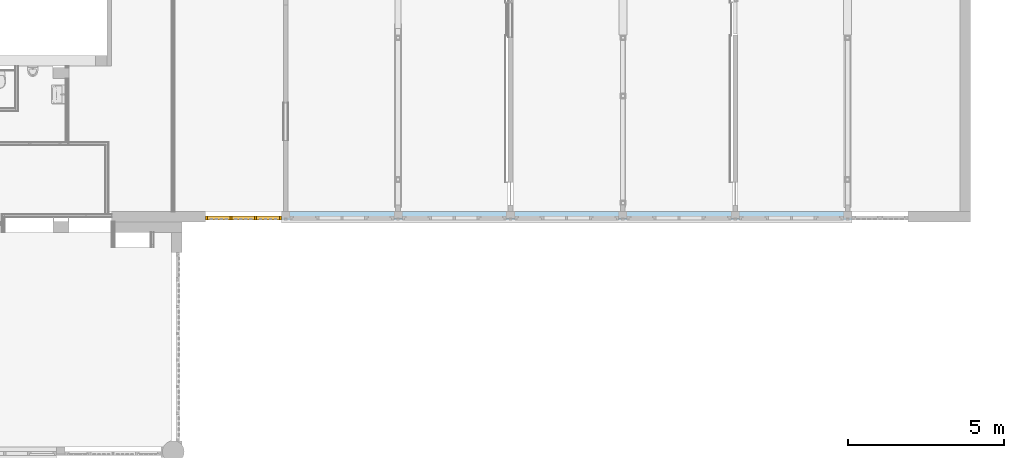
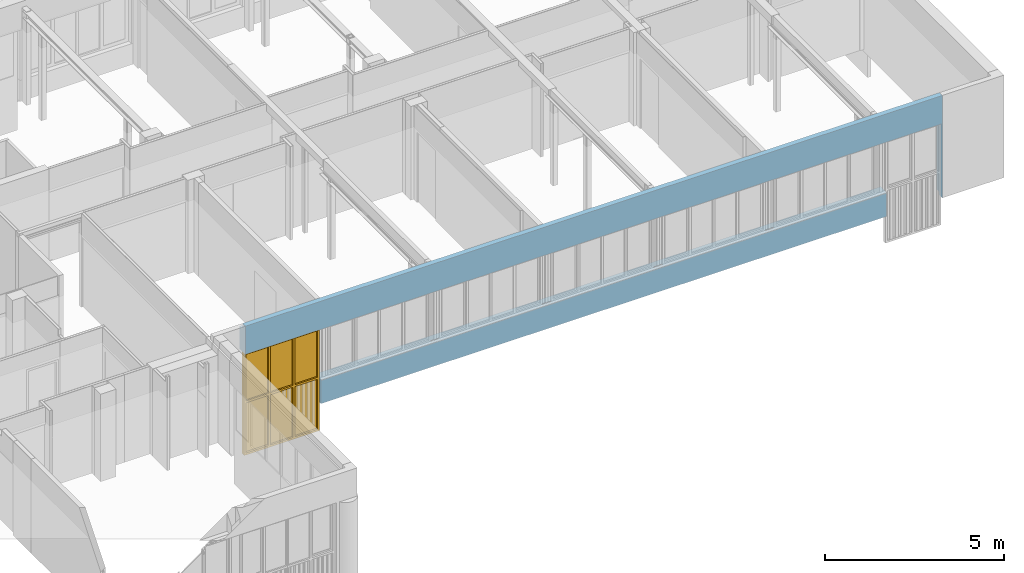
# One storey, part 35 of 99: 1 window, 7 openings, plus 1 element that does not belong to this part.
"""IFC2X3 building model written with IfcOpenShell, lengths in millimetres."""

from ifc_helpers import new_model, entity, si_unit, converted_unit, derived_unit, money_unit, direction, frame, origin_with_axes, place, context, subcontext, project, spatial, open_shell, faceted_brep, surface_model, material, type_object, element, fill, save


model = new_model("IFC2X3")

# Units and contexts
model_context = context("Model", 3, precision=0.01, world=origin_with_axes(), true_north=direction((0.0, 1.0)))
body_context = subcontext(model_context, "Body", "Model", "MODEL_VIEW")
ifc_project = project(units=[si_unit("LENGTHUNIT", "METRE", prefix="MILLI"), si_unit("AREAUNIT", "SQUARE_METRE"), si_unit("VOLUMEUNIT", "CUBIC_METRE"), converted_unit("PLANEANGLEUNIT", "DEGREE", entity("IfcPlaneAngleMeasure", 0.0174532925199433), si_unit("PLANEANGLEUNIT", "RADIAN"), dimensions=[0, 0, 0, 0, 0, 0, 0]), money_unit("EUR"), converted_unit("TIMEUNIT", "Year", entity("IfcTimeMeasure", 31557600.0), si_unit("TIMEUNIT", "SECOND"), dimensions=[0, 0, 1, 0, 0, 0, 0]), si_unit("MASSUNIT", "GRAM", prefix="KILO"), si_unit("THERMODYNAMICTEMPERATUREUNIT", "DEGREE_CELSIUS"), si_unit("LUMINOUSINTENSITYUNIT", "LUMEN"), si_unit("ENERGYUNIT", "JOULE", prefix="MEGA"), derived_unit("THERMALCONDUCTANCEUNIT", [(si_unit("POWERUNIT", "WATT"), 1), (si_unit("LENGTHUNIT", "METRE"), -1), (si_unit("THERMODYNAMICTEMPERATUREUNIT", "KELVIN"), -1)]), derived_unit("SPECIFICHEATCAPACITYUNIT", [(si_unit("ENERGYUNIT", "JOULE"), 1), (si_unit("MASSUNIT", "GRAM", prefix="KILO"), -1), (si_unit("THERMODYNAMICTEMPERATUREUNIT", "KELVIN"), -1)]), derived_unit("MASSDENSITYUNIT", [(si_unit("MASSUNIT", "GRAM", prefix="KILO"), 1), (si_unit("VOLUMEUNIT", "CUBIC_METRE"), -1)])], contexts=[model_context])

# Site, building, storey
site_placement = place(None, origin_with_axes())
site = spatial("IfcSite", under=ifc_project, at=site_placement, Name="Site", CompositionType="ELEMENT")
building_placement = place(site_placement, origin_with_axes())
building = spatial("IfcBuilding", under=site, at=building_placement, Name="Naam gebouw", CompositionType="ELEMENT")
storey_placement = place(building_placement, frame((0.0, 0.0, 7650.0), z_axis=(0.0, 0.0, 1.0), x_axis=(1.0, 0.0, 0.0)))
storey = spatial("IfcBuildingStorey", under=building, at=storey_placement, Name="2e verdieping N", CompositionType="ELEMENT", Elevation=7650.0)

# Wall, openings, window
ifc_material = material(Name="ALG - CONSTRUCTIEF")
wall_type = type_object("IfcWallType", Name="ALG - CONSTRUCTIEF 330", PredefinedType="NOTDEFINED")
wall_placement = place(storey_placement, frame((55938.1567191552, 10990.91242510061, -99.99999999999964), z_axis=(0.0, 0.0, 1.0), x_axis=(-1.0, 0.0, 0.0)))
wall = element("IfcWall", 1, at=wall_placement, inside=storey, type_object=wall_type, material=ifc_material, Name="_Wand-x", context=body_context, shape_type="Brep", body=[
    faceted_brep([(22515.6567191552, 0.0, 2540.000000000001), (22515.6567191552, 329.9999999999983, 2540.000000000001), (22515.6567191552, 329.9999999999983, 3500.0), (22515.6567191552, 168.1794439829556, 3500.0), (22515.6567191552, 168.1794439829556, 3299.999999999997), (22515.6567191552, 0.0, 3299.999999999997), (0.6567191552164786, 0.0, 2540.000000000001), (0.6567191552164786, 330.0000000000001, 2540.000000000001), (20075.65671915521, 329.9999999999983, 2540.000000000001), (2075.656719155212, 260.0000000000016, 2540.000000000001), (1800.656719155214, 259.9999999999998, 2540.000000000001), (1800.656719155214, 216.0000000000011, 2540.000000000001), (2075.656719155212, 216.0000000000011, 2540.000000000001), (9275.656719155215, 215.9999999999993, 2540.000000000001), (9275.656719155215, 259.9999999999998, 2540.000000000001), (9000.65671915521, 259.999999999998, 2540.000000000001), (9000.65671915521, 215.9999999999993, 2540.000000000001), (5675.656719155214, 216.0000000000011, 2540.000000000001), (5675.656719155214, 259.9999999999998, 2540.000000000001), (5400.656719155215, 259.9999999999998, 2540.000000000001), (5400.656719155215, 216.0000000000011, 2540.000000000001), (12875.6567191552, 259.9999999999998, 2540.000000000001), (12600.6567191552, 259.999999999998, 2540.000000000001), (12600.6567191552, 215.9999999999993, 2540.000000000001), (12875.6567191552, 215.9999999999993, 2540.000000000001), (16475.6567191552, 215.9999999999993, 2540.000000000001), (16475.6567191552, 259.9999999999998, 2540.000000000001), (16200.65671915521, 259.999999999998, 2540.000000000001), (16200.65671915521, 215.9999999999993, 2540.000000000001), (20075.65671915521, 259.9999999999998, 2540.000000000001), (19800.65671915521, 259.999999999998, 2540.000000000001), (19800.65671915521, 215.9999999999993, 2540.000000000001), (20075.65671915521, 215.9999999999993, 2540.000000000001), (0.6567191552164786, 330.0000000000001, 0.0), (0.0, 330.0000000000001, 0.0), (0.0, 330.0000000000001, 3500.0), (0.0, 168.1794439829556, 3500.0), (0.0, 168.1794439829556, 3299.999999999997), (0.0, 0.0, 3299.999999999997), (0.0, 0.0, 99.99999999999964), (0.6567191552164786, 0.0, 99.99999999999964), (0.6567191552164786, 146.0000000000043, 99.99999999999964), (0.6567191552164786, 146.0000000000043, 0.0), (0.0, 146.0000000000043, 0.0), (0.0, 146.0000000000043, 99.99999999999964)], [[[0, 1, 2, 3, 4, 5]], [[1, 0, 6, 7, 8], [9, 10, 11, 12], [13, 14, 15, 16], [17, 18, 19, 20], [21, 22, 23, 24], [25, 26, 27, 28], [29, 30, 31, 32]], [[1, 8, 7, 33, 34, 35, 2]], [[3, 2, 35, 36]], [[4, 3, 36, 37]], [[5, 4, 37, 38]], [[6, 0, 5, 38, 39, 40]], [[33, 7, 6, 40, 41, 42]], [[10, 9, 12, 11]], [[14, 13, 16, 15]], [[18, 17, 20, 19]], [[22, 21, 24, 23]], [[26, 25, 28, 27]], [[30, 29, 32, 31]], [[34, 33, 42, 43]], [[35, 34, 43, 44, 39, 38, 37, 36]], [[40, 39, 44, 41]], [[42, 41, 44, 43]]]),
    faceted_brep([(20075.65671915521, 259.9999999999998, 820.0000000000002), (19800.65671915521, 259.999999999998, 820.0000000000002), (19800.65671915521, 215.9999999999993, 820.0000000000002), (20075.65671915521, 215.9999999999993, 820.0000000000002), (20075.65671915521, 329.9999999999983, 820.0000000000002), (1800.656719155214, 330.0000000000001, 820.0000000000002), (1800.656719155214, 259.9999999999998, 820.0000000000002), (2075.656719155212, 260.0000000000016, 820.0000000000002), (2075.656719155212, 216.0000000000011, 820.0000000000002), (1800.656719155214, 216.0000000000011, 820.0000000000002), (1800.656719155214, 0.0, 820.0000000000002), (20075.65671915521, 0.0, 820.0000000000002), (20075.65671915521, 145.999999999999, 820.0000000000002), (9000.65671915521, 259.999999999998, 820.0000000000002), (9275.656719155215, 259.9999999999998, 820.0000000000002), (9275.656719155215, 215.9999999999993, 820.0000000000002), (9000.65671915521, 215.9999999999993, 820.0000000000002), (5400.656719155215, 259.9999999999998, 820.0000000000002), (5675.656719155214, 259.9999999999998, 820.0000000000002), (5675.656719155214, 216.0000000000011, 820.0000000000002), (5400.656719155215, 216.0000000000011, 820.0000000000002), (12600.6567191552, 259.999999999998, 820.0000000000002), (12875.6567191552, 259.9999999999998, 820.0000000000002), (12875.6567191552, 215.9999999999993, 820.0000000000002), (12600.6567191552, 215.9999999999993, 820.0000000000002), (16475.6567191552, 259.9999999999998, 820.0000000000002), (16475.6567191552, 215.9999999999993, 820.0000000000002), (16200.65671915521, 215.9999999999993, 820.0000000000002), (16200.65671915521, 259.999999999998, 820.0000000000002), (20075.65671915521, 146.0000000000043, 0.0), (20075.65671915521, 329.9999999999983, 0.0), (20075.65671915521, 146.0000000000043, 99.99999999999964), (1800.656719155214, 330.0000000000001, 0.0), (1800.656719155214, 146.0000000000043, 0.0), (1800.656719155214, 146.0000000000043, 99.99999999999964), (1800.656719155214, 0.0, 99.99999999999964), (20075.65671915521, 0.0, 99.99999999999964)], [[[0, 1, 2, 3]], [[0, 4, 5, 6, 7, 8, 9, 10, 11, 12, 3, 2, 1], [13, 14, 15, 16], [17, 18, 19, 20], [21, 22, 23, 24], [25, 26, 27, 28]], [[29, 30, 4, 0, 3, 12, 31]], [[4, 30, 32, 5]], [[6, 5, 32, 33, 34, 35, 10, 9]], [[7, 6, 9, 8]], [[36, 11, 10, 35]], [[31, 12, 11, 36]], [[14, 13, 16, 15]], [[18, 17, 20, 19]], [[22, 21, 24, 23]], [[26, 25, 28, 27]], [[30, 29, 33, 32]], [[29, 31, 34, 33]], [[31, 36, 35, 34]]]),
])
opening_1_placement = place(wall_placement, frame((3738.156719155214, 0.0, 820.0000000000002), z_axis=(0.0, 0.0, 1.0), x_axis=(1.0, 0.0, 0.0)))
element("IfcOpeningElement", 2, at=opening_1_placement, cuts=wall, Name="_Merk-052", context=body_context, shape_type="Brep", body=[
    faceted_brep([(-1937.5, 260.0000000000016, 0.0), (-1937.5, 260.0000000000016, 1720.000000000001), (-1937.5, 331.0000000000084, 1720.000000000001), (-1937.5, 331.0000000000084, 0.0), (-1937.5, -0.9999999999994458, 0.0), (-1937.5, -0.9999999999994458, 1720.000000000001), (1937.5, 259.9999999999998, 1720.000000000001), (1937.5, 331.0000000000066, 1720.000000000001), (1937.5, -1.000000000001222, 1720.000000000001), (1937.5, 331.0000000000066, 0.0), (1937.5, 259.9999999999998, 0.0), (1937.5, -1.000000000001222, 0.0)], [[[0, 1, 2, 3]], [[1, 0, 4, 5]], [[6, 7, 2, 1, 5, 8]], [[7, 9, 3, 2]], [[0, 3, 9, 10, 11, 4]], [[5, 4, 11, 8]], [[6, 10, 9, 7]], [[10, 6, 8, 11]]]),
])
opening_2_placement = place(wall_placement, frame((7338.156719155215, 0.0, 820.0000000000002), z_axis=(0.0, 0.0, 1.0), x_axis=(1.0, 0.0, 0.0)))
element("IfcOpeningElement", 3, at=opening_2_placement, cuts=wall, Name="_Merk-052", context=body_context, shape_type="Brep", body=[
    faceted_brep([(-1937.5, 259.9999999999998, 0.0), (-1937.5, 259.9999999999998, 1720.000000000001), (-1937.5, 331.0000000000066, 1720.000000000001), (-1937.5, 331.0000000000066, 0.0), (-1937.5, -1.000000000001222, 0.0), (-1937.5, -1.000000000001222, 1720.000000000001), (1937.5, 259.999999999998, 1720.000000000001), (1937.5, 331.0000000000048, 1720.000000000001), (1937.5, -1.000000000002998, 1720.000000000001), (1937.5, 331.0000000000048, 0.0), (1937.5, 259.999999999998, 0.0), (1937.5, -1.000000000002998, 0.0)], [[[0, 1, 2, 3]], [[1, 0, 4, 5]], [[6, 7, 2, 1, 5, 8]], [[7, 9, 3, 2]], [[0, 3, 9, 10, 11, 4]], [[5, 4, 11, 8]], [[6, 10, 9, 7]], [[10, 6, 8, 11]]]),
])
opening_3_placement = place(wall_placement, frame((10938.1567191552, 0.0, 820.0000000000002), z_axis=(0.0, 0.0, 1.0), x_axis=(1.0, 0.0, 0.0)))
element("IfcOpeningElement", 4, at=opening_3_placement, cuts=wall, Name="_Merk-052", context=body_context, shape_type="Brep", body=[
    faceted_brep([(-1937.5, 259.9999999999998, 0.0), (-1937.5, 259.9999999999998, 1720.000000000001), (-1937.5, 331.0000000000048, 1720.000000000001), (-1937.5, 331.0000000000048, 0.0), (-1937.5, -1.000000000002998, 0.0), (-1937.5, -1.000000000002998, 1720.000000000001), (1937.5, 259.999999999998, 1720.000000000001), (1937.5, 331.0000000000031, 1720.000000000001), (1937.5, -1.000000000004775, 1720.000000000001), (1937.5, 331.0000000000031, 0.0), (1937.5, 259.999999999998, 0.0), (1937.5, -1.000000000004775, 0.0)], [[[0, 1, 2, 3]], [[1, 0, 4, 5]], [[6, 7, 2, 1, 5, 8]], [[7, 9, 3, 2]], [[0, 3, 9, 10, 11, 4]], [[5, 4, 11, 8]], [[6, 10, 9, 7]], [[10, 6, 8, 11]]]),
])
opening_4_placement = place(wall_placement, frame((14538.1567191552, 0.0, 820.0000000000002), z_axis=(0.0, 0.0, 1.0), x_axis=(1.0, 0.0, 0.0)))
element("IfcOpeningElement", 5, at=opening_4_placement, cuts=wall, Name="_Merk-052", context=body_context, shape_type="Brep", body=[
    faceted_brep([(-1937.5, 259.9999999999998, 0.0), (-1937.5, 259.9999999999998, 1720.000000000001), (-1937.5, 331.0000000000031, 1720.000000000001), (-1937.5, 331.0000000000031, 0.0), (-1937.5, -1.000000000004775, 0.0), (-1937.5, -1.000000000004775, 1720.000000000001), (1937.5, 259.999999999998, 1720.000000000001), (1937.5, 331.0000000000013, 1720.000000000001), (1937.5, -1.000000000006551, 1720.000000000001), (1937.5, 331.0000000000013, 0.0), (1937.5, 259.999999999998, 0.0), (1937.5, -1.000000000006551, 0.0)], [[[0, 1, 2, 3]], [[1, 0, 4, 5]], [[6, 7, 2, 1, 5, 8]], [[7, 9, 3, 2]], [[0, 3, 9, 10, 11, 4]], [[5, 4, 11, 8]], [[6, 10, 9, 7]], [[10, 6, 8, 11]]]),
])
opening_5_placement = place(wall_placement, frame((18138.15671915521, 0.0, 820.0000000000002), z_axis=(0.0, 0.0, 1.0), x_axis=(1.0, 0.0, 0.0)))
element("IfcOpeningElement", 6, at=opening_5_placement, cuts=wall, Name="_Merk-052", context=body_context, shape_type="Brep", body=[
    faceted_brep([(-1937.5, 259.9999999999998, 0.0), (-1937.5, 259.9999999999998, 1720.000000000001), (-1937.5, 331.0000000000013, 1720.000000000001), (-1937.5, 331.0000000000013, 0.0), (-1937.5, -1.000000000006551, 0.0), (-1937.5, -1.000000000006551, 1720.000000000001), (1937.5, 259.999999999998, 1720.000000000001), (1937.5, 330.9999999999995, 1720.000000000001), (1937.5, -1.000000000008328, 1720.000000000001), (1937.5, 330.9999999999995, 0.0), (1937.5, 259.999999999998, 0.0), (1937.5, -1.000000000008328, 0.0)], [[[0, 1, 2, 3]], [[1, 0, 4, 5]], [[6, 7, 2, 1, 5, 8]], [[7, 9, 3, 2]], [[0, 3, 9, 10, 11, 4]], [[5, 4, 11, 8]], [[6, 10, 9, 7]], [[10, 6, 8, 11]]]),
])
opening_6_placement = place(wall_placement, frame((21295.6567191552, 0.0, -959.9999999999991), z_axis=(0.0, 0.0, 1.0), x_axis=(1.0, 0.0, 0.0)))
opening_6 = element("IfcOpeningElement", 7, at=opening_6_placement, cuts=wall, Name="_Merk-055", context=body_context, shape_type="Brep", body=[
    faceted_brep([(-1219.999999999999, 259.9999999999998, -1060.0), (-1219.999999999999, 259.9999999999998, 3500.0), (-1219.999999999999, 331.0000000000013, 3500.0), (-1219.999999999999, 331.0000000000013, -1060.0), (-1219.999999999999, -1.000000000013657, -1060.0), (-1219.999999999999, -1.000000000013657, 3500.0), (1219.999999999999, 259.999999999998, 3500.0), (1219.999999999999, 330.9999999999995, 3500.0), (1219.999999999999, -1.000000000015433, 3500.0), (1219.999999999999, 330.9999999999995, -1060.0), (1219.999999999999, 259.999999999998, -1060.0), (1219.999999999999, -1.000000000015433, -1060.0)], [[[0, 1, 2, 3]], [[1, 0, 4, 5]], [[6, 7, 2, 1, 5, 8]], [[7, 9, 3, 2]], [[0, 3, 9, 10, 11, 4]], [[5, 4, 11, 8]], [[6, 10, 9, 7]], [[10, 6, 8, 11]]]),
])
opening_7_placement = place(wall_placement, frame((900.6567191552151, 0.0, -960.0000000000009), z_axis=(0.0, 0.0, 1.0), x_axis=(1.0, 0.0, 0.0)))
element("IfcOpeningElement", 8, at=opening_7_placement, cuts=wall, Name="_Merk-051", context=body_context, shape_type="Brep", body=[
    faceted_brep([(-899.9999999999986, 260.0000000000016, -1060.0), (-899.9999999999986, 260.0000000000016, 3500.000000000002), (-899.9999999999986, 331.0000000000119, 3500.000000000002), (-899.9999999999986, 331.0000000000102, -1060.0), (-899.9999999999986, -0.9999999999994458, -1060.0), (-899.9999999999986, -0.9999999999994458, 3500.000000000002), (899.9999999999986, 259.9999999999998, 3500.000000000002), (899.9999999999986, 331.0000000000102, 3500.000000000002), (899.9999999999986, -1.000000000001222, 3500.000000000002), (899.9999999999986, 331.0000000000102, -1060.0), (899.9999999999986, 259.9999999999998, -1060.0), (899.9999999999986, -1.000000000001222, -1060.0)], [[[0, 1, 2, 3]], [[1, 0, 4, 5]], [[6, 7, 2, 1, 5, 8]], [[7, 9, 3, 2]], [[0, 3, 9, 10, 11, 4]], [[5, 4, 11, 8]], [[6, 10, 9, 7]], [[10, 6, 8, 11]]]),
])
window_style = type_object("IfcWindowStyle", Name="R3 bl ol 26", ConstructionType="NOTDEFINED", OperationType="USERDEFINED", ParameterTakesPrecedence=False, Sizeable=False)
window_placement = place(opening_6_placement, frame((1219.999999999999, 0.0, 0.0), z_axis=(0.0, 0.0, 1.0), x_axis=(-1.0, 0.0, 0.0)))
window = element("IfcWindow", 9, at=window_placement, inside=storey, type_object=window_style, Name="_Merk-055", ObjectType="WINDOW", OverallHeight=3500.0, OverallWidth=2440.0, context=body_context, shape_type="SurfaceModel", body=[
    faceted_brep([(2372.999999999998, -259.9999999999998, 1779.999999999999), (2372.999999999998, -259.9999999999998, 1847.0), (2372.999999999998, -145.999999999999, 1847.0), (2372.999999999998, -145.999999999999, 1779.999999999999), (2372.999999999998, -259.9999999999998, 67.00000000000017), (2439.999999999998, -259.9999999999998, 67.00000000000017), (2439.999999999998, -259.9999999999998, 3433.0), (2372.999999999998, -259.9999999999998, 3433.0), (2372.999999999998, -146.0000000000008, 3433.0), (2439.999999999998, -146.0000000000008, 3433.0), (2439.999999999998, -145.999999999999, 67.00000000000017), (2372.999999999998, -145.999999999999, 67.00000000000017)], [[[0, 1, 2, 3]], [[0, 4, 5, 6, 7, 1]], [[1, 7, 8, 2]], [[3, 2, 8, 9, 10, 11]], [[4, 0, 3, 11]], [[5, 4, 11, 10]], [[6, 5, 10, 9]], [[7, 6, 9, 8]]]),
    faceted_brep([(67.00000000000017, -259.999999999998, 67.00000000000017), (0.0, -259.999999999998, 67.00000000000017), (0.0, -145.999999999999, 67.00000000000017), (67.00000000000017, -145.999999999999, 67.00000000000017), (67.00000000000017, -259.9999999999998, 1779.999999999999), (67.00000000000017, -259.9999999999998, 1847.0), (67.00000000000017, -259.9999999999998, 3433.0), (0.0, -259.9999999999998, 3433.0), (0.0, -145.999999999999, 3433.0), (67.00000000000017, -145.999999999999, 3433.0), (67.00000000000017, -145.999999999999, 1847.0), (67.00000000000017, -145.999999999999, 1779.999999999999)], [[[0, 1, 2, 3]], [[0, 4, 5, 6, 7, 1]], [[1, 7, 8, 2]], [[3, 2, 8, 9, 10, 11]], [[4, 0, 3, 11]], [[5, 4, 11, 10]], [[6, 5, 10, 9]], [[7, 6, 9, 8]]]),
    faceted_brep([(857.999999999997, -259.9999999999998, 1847.0), (857.999999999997, -259.9999999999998, 1779.999999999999), (857.999999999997, -145.999999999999, 1779.999999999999), (857.999999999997, -145.999999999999, 1847.0), (857.999999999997, -259.9999999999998, 3433.0), (790.9999999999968, -259.9999999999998, 3433.0), (790.9999999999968, -259.9999999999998, 1847.0), (790.9999999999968, -259.9999999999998, 1779.999999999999), (790.9999999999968, -259.9999999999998, 67.00000000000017), (857.999999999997, -259.9999999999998, 67.00000000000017), (857.999999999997, -145.999999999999, 67.00000000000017), (790.9999999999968, -145.999999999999, 67.00000000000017), (790.9999999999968, -145.999999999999, 1779.999999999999), (790.9999999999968, -145.999999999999, 1847.0), (790.9999999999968, -145.999999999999, 3433.0), (857.999999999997, -145.999999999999, 3433.0)], [[[0, 1, 2, 3]], [[0, 4, 5, 6, 7, 8, 9, 1]], [[1, 9, 10, 2]], [[3, 2, 10, 11, 12, 13, 14, 15]], [[4, 0, 3, 15]], [[5, 4, 15, 14]], [[6, 5, 14, 13]], [[7, 6, 13, 12]], [[8, 7, 12, 11]], [[9, 8, 11, 10]]]),
    faceted_brep([(1582.000000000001, -259.9999999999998, 3433.0), (1649.000000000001, -259.9999999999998, 3433.0), (1649.000000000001, -145.999999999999, 3433.0), (1582.000000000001, -145.999999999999, 3433.0), (1582.000000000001, -259.9999999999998, 1847.0), (1582.000000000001, -259.9999999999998, 1779.999999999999), (1582.000000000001, -259.9999999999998, 67.00000000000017), (1649.000000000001, -259.9999999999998, 67.00000000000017), (1649.000000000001, -259.9999999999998, 1779.999999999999), (1649.000000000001, -259.9999999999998, 1847.0), (1649.000000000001, -145.999999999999, 1847.0), (1649.000000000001, -145.999999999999, 1779.999999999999), (1649.000000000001, -145.999999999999, 67.00000000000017), (1582.000000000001, -145.999999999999, 67.00000000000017), (1582.000000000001, -145.999999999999, 1779.999999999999), (1582.000000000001, -145.999999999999, 1847.0)], [[[0, 1, 2, 3]], [[0, 4, 5, 6, 7, 8, 9, 1]], [[1, 9, 10, 2]], [[3, 2, 10, 11, 12, 13, 14, 15]], [[4, 0, 3, 15]], [[5, 4, 15, 14]], [[6, 5, 14, 13]], [[7, 6, 13, 12]], [[8, 7, 12, 11]], [[9, 8, 11, 10]]]),
    faceted_brep([(790.9999999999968, -259.9999999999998, 1847.0), (790.9999999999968, -259.9999999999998, 1779.999999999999), (790.9999999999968, -145.999999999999, 1779.999999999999), (790.9999999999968, -145.999999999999, 1847.0), (67.00000000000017, -259.9999999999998, 1847.0), (67.00000000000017, -259.9999999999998, 1779.999999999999), (67.00000000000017, -145.999999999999, 1779.999999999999), (67.00000000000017, -145.999999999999, 1847.0)], [[[0, 1, 2, 3]], [[0, 4, 5, 1]], [[1, 5, 6, 2]], [[3, 2, 6, 7]], [[4, 0, 3, 7]], [[5, 4, 7, 6]]]),
    faceted_brep([(857.999999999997, -259.9999999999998, 1779.999999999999), (857.999999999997, -259.9999999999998, 1847.0), (857.999999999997, -145.999999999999, 1847.0), (857.999999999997, -145.999999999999, 1779.999999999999), (1582.000000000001, -259.9999999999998, 1779.999999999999), (1582.000000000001, -259.9999999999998, 1847.0), (1582.000000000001, -145.999999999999, 1847.0), (1582.000000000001, -145.999999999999, 1779.999999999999)], [[[0, 1, 2, 3]], [[0, 4, 5, 1]], [[1, 5, 6, 2]], [[3, 2, 6, 7]], [[4, 0, 3, 7]], [[5, 4, 7, 6]]]),
    faceted_brep([(2372.999999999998, -259.9999999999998, 1847.0), (2372.999999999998, -259.9999999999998, 1779.999999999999), (2372.999999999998, -145.999999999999, 1779.999999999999), (2372.999999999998, -145.999999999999, 1847.0), (1649.000000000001, -259.9999999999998, 1847.0), (1649.000000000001, -259.9999999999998, 1779.999999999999), (1649.000000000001, -145.999999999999, 1779.999999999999), (1649.000000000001, -145.999999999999, 1847.0)], [[[0, 1, 2, 3]], [[0, 4, 5, 1]], [[1, 5, 6, 2]], [[3, 2, 6, 7]], [[4, 0, 3, 7]], [[5, 4, 7, 6]]]),
    faceted_brep([(2372.999999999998, -259.9999999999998, 67.00000000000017), (2439.999999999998, -259.9999999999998, 67.00000000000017), (2439.999999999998, -145.999999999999, 67.00000000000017), (2372.999999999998, -145.999999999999, 67.00000000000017), (1649.000000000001, -259.9999999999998, 67.00000000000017), (1582.000000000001, -259.9999999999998, 67.00000000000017), (857.999999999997, -259.9999999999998, 67.00000000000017), (790.9999999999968, -259.9999999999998, 67.00000000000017), (67.00000000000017, -259.999999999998, 67.00000000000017), (0.0, -259.999999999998, 67.00000000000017), (0.0, -259.999999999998, 0.0), (2439.999999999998, -259.9999999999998, 0.0), (2439.999999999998, -145.999999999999, 0.0), (0.0, -145.999999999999, 0.0), (0.0, -145.999999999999, 67.00000000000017), (67.00000000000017, -145.999999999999, 67.00000000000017), (790.9999999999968, -145.999999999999, 67.00000000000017), (857.999999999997, -145.999999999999, 67.00000000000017), (1582.000000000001, -145.999999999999, 67.00000000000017), (1649.000000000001, -145.999999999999, 67.00000000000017)], [[[0, 1, 2, 3]], [[0, 4, 5, 6, 7, 8, 9, 10, 11, 1]], [[1, 11, 12, 2]], [[3, 2, 12, 13, 14, 15, 16, 17, 18, 19]], [[4, 0, 3, 19]], [[5, 4, 19, 18]], [[6, 5, 18, 17]], [[7, 6, 17, 16]], [[8, 7, 16, 15]], [[9, 8, 15, 14]], [[10, 9, 14, 13]], [[11, 10, 13, 12]]]),
    faceted_brep([(1649.000000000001, -259.9999999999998, 3433.0), (1582.000000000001, -259.9999999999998, 3433.0), (1582.000000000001, -145.999999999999, 3433.0), (1649.000000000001, -145.999999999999, 3433.0), (2372.999999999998, -259.9999999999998, 3433.0), (2439.999999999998, -259.9999999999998, 3433.0), (2439.999999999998, -259.9999999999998, 3500.0), (0.0, -259.9999999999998, 3500.0), (0.0, -259.9999999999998, 3433.0), (67.00000000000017, -259.9999999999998, 3433.0), (790.9999999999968, -259.9999999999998, 3433.0), (857.999999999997, -259.9999999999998, 3433.0), (857.999999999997, -145.999999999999, 3433.0), (790.9999999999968, -145.999999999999, 3433.0), (67.00000000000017, -145.999999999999, 3433.0), (0.0, -145.999999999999, 3433.0), (0.0, -145.999999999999, 3500.0), (2439.999999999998, -146.0000000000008, 3500.0), (2439.999999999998, -146.0000000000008, 3433.0), (2372.999999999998, -146.0000000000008, 3433.0)], [[[0, 1, 2, 3]], [[0, 4, 5, 6, 7, 8, 9, 10, 11, 1]], [[1, 11, 12, 2]], [[3, 2, 12, 13, 14, 15, 16, 17, 18, 19]], [[4, 0, 3, 19]], [[5, 4, 19, 18]], [[6, 5, 18, 17]], [[7, 6, 17, 16]], [[8, 7, 16, 15]], [[9, 8, 15, 14]], [[10, 9, 14, 13]], [[11, 10, 13, 12]]]),
    surface_model("IfcShellBasedSurfaceModel", [(2372.999999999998, -209.9999999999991, 1847.0), (2372.999999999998, -209.9999999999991, 3433.0), (1649.000000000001, -209.9999999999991, 3433.0), (1649.000000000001, -209.9999999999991, 1847.0)], [open_shell([[[0, 1, 2, 3]]])]),
    surface_model("IfcShellBasedSurfaceModel", [(2372.999999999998, -189.9999999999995, 1847.0), (1649.000000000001, -189.9999999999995, 1847.0), (1649.000000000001, -189.9999999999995, 3433.0), (2372.999999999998, -189.9999999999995, 3433.0)], [open_shell([[[0, 1, 2, 3]]])]),
    surface_model("IfcShellBasedSurfaceModel", [(1582.000000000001, -209.9999999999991, 1847.0), (1582.000000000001, -209.9999999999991, 3433.0), (857.999999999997, -209.9999999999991, 3433.0), (857.999999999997, -209.9999999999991, 1847.0)], [open_shell([[[0, 1, 2, 3]]])]),
    surface_model("IfcShellBasedSurfaceModel", [(1582.000000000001, -189.9999999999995, 1847.0), (857.999999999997, -189.9999999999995, 1847.0), (857.999999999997, -189.9999999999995, 3433.0), (1582.000000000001, -189.9999999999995, 3433.0)], [open_shell([[[0, 1, 2, 3]]])]),
    surface_model("IfcShellBasedSurfaceModel", [(790.9999999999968, -209.9999999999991, 1847.0), (790.9999999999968, -209.9999999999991, 3433.0), (67.00000000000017, -209.9999999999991, 3433.0), (67.00000000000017, -209.9999999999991, 1847.0)], [open_shell([[[0, 1, 2, 3]]])]),
    surface_model("IfcShellBasedSurfaceModel", [(790.9999999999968, -189.9999999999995, 1847.0), (67.00000000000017, -189.9999999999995, 1847.0), (67.00000000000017, -189.9999999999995, 3433.0), (790.9999999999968, -189.9999999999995, 3433.0)], [open_shell([[[0, 1, 2, 3]]])]),
    faceted_brep([(2372.999999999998, -199.9999999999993, 67.00000000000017), (1649.000000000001, -199.9999999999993, 67.00000000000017), (1649.000000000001, -145.999999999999, 67.00000000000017), (2372.999999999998, -145.999999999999, 67.00000000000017), (2372.999999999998, -199.9999999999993, 1779.999999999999), (1649.000000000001, -199.9999999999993, 1779.999999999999), (1649.000000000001, -145.999999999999, 1779.999999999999), (2372.999999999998, -145.999999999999, 1779.999999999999)], [[[0, 1, 2, 3]], [[0, 4, 5, 1]], [[1, 5, 6, 2]], [[3, 2, 6, 7]], [[4, 0, 3, 7]], [[5, 4, 7, 6]]]),
    faceted_brep([(1582.000000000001, -199.9999999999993, 67.00000000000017), (857.999999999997, -199.9999999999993, 67.00000000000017), (857.999999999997, -145.999999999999, 67.00000000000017), (1582.000000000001, -145.999999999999, 67.00000000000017), (1582.000000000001, -199.9999999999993, 1779.999999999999), (857.999999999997, -199.9999999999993, 1779.999999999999), (857.999999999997, -145.999999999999, 1779.999999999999), (1582.000000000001, -145.999999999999, 1779.999999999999)], [[[0, 1, 2, 3]], [[0, 4, 5, 1]], [[1, 5, 6, 2]], [[3, 2, 6, 7]], [[4, 0, 3, 7]], [[5, 4, 7, 6]]]),
    faceted_brep([(790.9999999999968, -199.9999999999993, 67.00000000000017), (67.00000000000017, -199.9999999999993, 67.00000000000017), (67.00000000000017, -145.999999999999, 67.00000000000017), (790.9999999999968, -145.999999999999, 67.00000000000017), (790.9999999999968, -199.9999999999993, 1779.999999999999), (67.00000000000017, -199.9999999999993, 1779.999999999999), (67.00000000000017, -145.999999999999, 1779.999999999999), (790.9999999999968, -145.999999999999, 1779.999999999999)], [[[0, 1, 2, 3]], [[0, 4, 5, 1]], [[1, 5, 6, 2]], [[3, 2, 6, 7]], [[4, 0, 3, 7]], [[5, 4, 7, 6]]]),
])
fill(opening_6, window)

save(model, "model.ifc")
